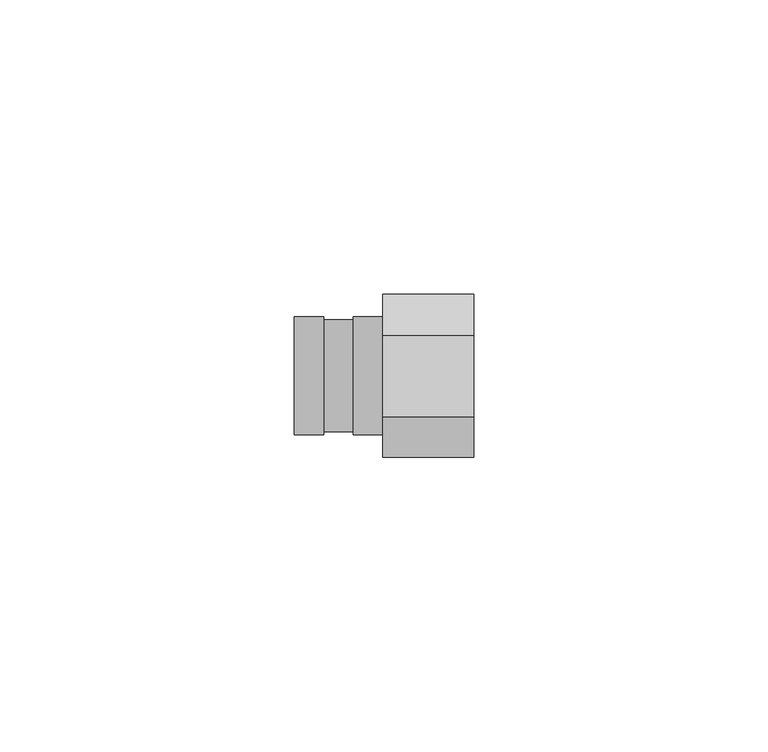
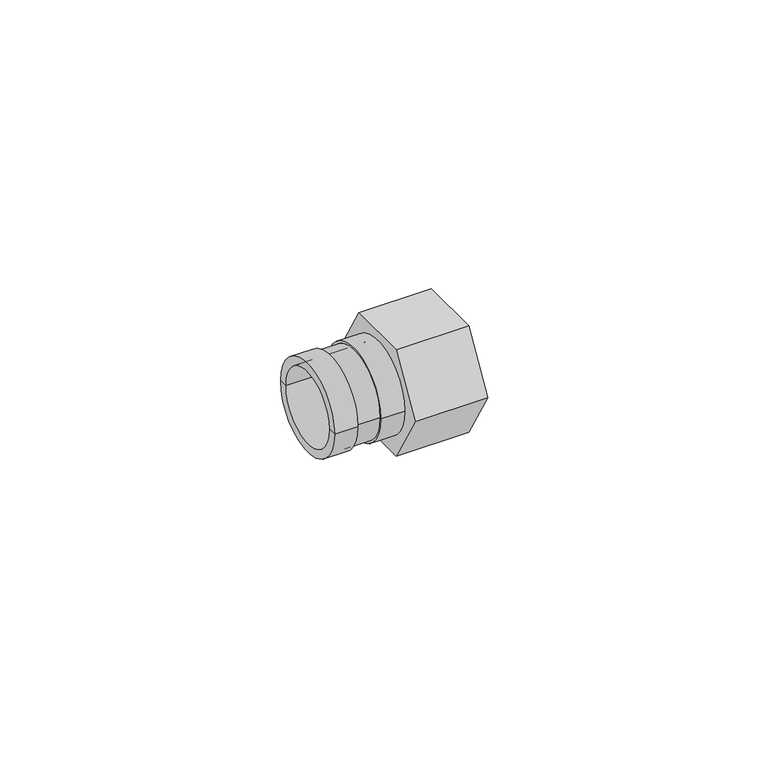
"""IFC4 building model written with IfcOpenShell, lengths in millimetres: pipe fitting geometry, Astra - Conexão Fixa Fêmea - KRH : Astra - Conexão Fixa Fêmea - KRH."""

from ifc_helpers import new_model, si_unit, frame, origin, place, context, project, spatial, polyline, circle_curve, source, transform, mapped, element, save
from ifc_brep_helpers import plane_surface, cylinder_surface, revolved_surface, advanced_brep


def pipe_fitting_7b5d8ced(model_context):
    return source(origin(), model_context, "Body", "AdvancedBrep", [
        advanced_brep(
        [(-15.0, -8.15, 0.0), (-15.0, 8.15, 0.0), (-15.0, 10.0, 0.0), (-15.0, -10.0, 0.0), (0.0, -8.15, 0.0), (0.0, 8.15, 0.0), (0.0, -10.0, 0.0), (0.0, 10.0, 0.0), (-10.0, 10.0, 0.0), (-10.0, -10.0, 0.0), (-5.0, -10.0, 0.0), (-5.0, 10.0, 0.0), (-10.0, 9.5, 0.0), (-10.0, -9.5, 0.0), (-5.0, 9.5, 0.0), (-5.0, -9.5, 0.0)],
        [
            (0, 1, circle_curve(frame((-15.0, 0.0, 0.0), z_axis=(1.0, 0.0, 0.0), x_axis=(0.0, 1.0, 0.0)), 8.15)),
            (1, 2),
            (2, 3, circle_curve(frame((-15.0, 0.0, 0.0), z_axis=(-1.0, 0.0, 0.0), x_axis=(0.0, 1.0, 0.0)), 10.0)),
            (3, 0),
            (1, 0, circle_curve(frame((-15.0, 0.0, 0.0), z_axis=(1.0, 0.0, 0.0), x_axis=(0.0, 1.0, 0.0)), 8.15)),
            (3, 2, circle_curve(frame((-15.0, 0.0, 0.0), z_axis=(-1.0, 0.0, 0.0), x_axis=(0.0, 1.0, 0.0)), 10.0)),
            (0, 4),
            (4, 5, circle_curve(frame((0.0, 0.0, 0.0), z_axis=(1.0, 0.0, 0.0), x_axis=(0.0, 1.0, 0.0)), 8.15)),
            (5, 1),
            (5, 4, circle_curve(frame((0.0, 0.0, 0.0), z_axis=(1.0, 0.0, 0.0), x_axis=(0.0, 1.0, 0.0)), 8.15)),
            (4, 6),
            (6, 7, circle_curve(frame((0.0, 0.0, 0.0), z_axis=(1.0, 0.0, 0.0), x_axis=(0.0, 1.0, 0.0)), 10.0)),
            (7, 5),
            (7, 6, circle_curve(frame((0.0, 0.0, 0.0), z_axis=(1.0, 0.0, 0.0), x_axis=(0.0, 1.0, 0.0)), 10.0)),
            (2, 8),
            (8, 9, circle_curve(frame((-10.0, 0.0, 0.0), z_axis=(-1.0, 0.0, 0.0), x_axis=(0.0, 1.0, 0.0)), 10.0)),
            (9, 3),
            (6, 10),
            (10, 11, circle_curve(frame((-5.0, 0.0, 0.0), z_axis=(1.0, 0.0, 0.0), x_axis=(0.0, 1.0, 0.0)), 10.0)),
            (11, 7),
            (9, 8, circle_curve(frame((-10.0, 0.0, 0.0), z_axis=(-1.0, 0.0, 0.0), x_axis=(0.0, 1.0, 0.0)), 10.0)),
            (11, 10, circle_curve(frame((-5.0, 0.0, 0.0), z_axis=(1.0, 0.0, 0.0), x_axis=(0.0, 1.0, 0.0)), 10.0)),
            (12, 13, circle_curve(frame((-10.0, 0.0, 0.0), z_axis=(-1.0, 0.0, 0.0), x_axis=(0.0, 1.0, 0.0)), 9.5)),
            (13, 9),
            (8, 12),
            (13, 12, circle_curve(frame((-10.0, 0.0, 0.0), z_axis=(-1.0, 0.0, 0.0), x_axis=(0.0, 1.0, 0.0)), 9.5)),
            (12, 14),
            (14, 15, circle_curve(frame((-5.0, 0.0, 0.0), z_axis=(-1.0, 0.0, 0.0), x_axis=(0.0, 1.0, 0.0)), 9.5)),
            (15, 13),
            (15, 14, circle_curve(frame((-5.0, 0.0, 0.0), z_axis=(-1.0, 0.0, 0.0), x_axis=(0.0, 1.0, 0.0)), 9.5)),
            (14, 11),
            (10, 15),
        ],
        [
            plane_surface(frame((-15.0, 0.0, 0.0), z_axis=(-1.0, 0.0, 0.0), x_axis=(0.0, 1.0, 0.0))),
            revolved_surface(polyline([(-15.0, 8.15, 0.0), (0.0, 8.15, 0.0)]), (-15.0, 0.0, 0.0), (-1.0, 0.0, 0.0)),
            plane_surface(frame((0.0, 0.0, 0.0), z_axis=(1.0, 0.0, 0.0), x_axis=(0.0, 1.0, 0.0))),
            cylinder_surface(frame((-15.0, 0.0, 0.0), z_axis=(-1.0, 0.0, 0.0), x_axis=(0.0, 1.0, 0.0)), 10.0),
            plane_surface(frame((-10.0, 0.0, 0.0), z_axis=(1.0, 0.0, 0.0), x_axis=(0.0, 1.0, 0.0))),
            cylinder_surface(frame((-15.0, 0.0, 0.0), z_axis=(-1.0, 0.0, 0.0), x_axis=(0.0, 1.0, 0.0)), 9.5),
            plane_surface(frame((-5.0, 0.0, 0.0), z_axis=(-1.0, 0.0, 0.0), x_axis=(0.0, 1.0, 0.0))),
        ],
        [
            (0, [[1, 2, 3, 4]]),
            (0, [[-2, 5, -4, 6]]),
            (1, [[-1, 7, 8, 9]]),
            (1, [[-5, -9, 10, -7]]),
            (2, [[-8, 11, 12, 13]]),
            (2, [[-10, -13, 14, -11]]),
            (3, [[-3, 15, 16, 17]]),
            (3, [[-12, 18, 19, 20]]),
            (3, [[-6, -17, 21, -15]]),
            (3, [[-14, -20, 22, -18]]),
            (4, [[23, 24, -16, 25]]),
            (4, [[26, -25, -21, -24]]),
            (5, [[-23, 27, 28, 29]]),
            (5, [[-26, -29, 30, -27]]),
            (6, [[-28, 31, -19, 32]]),
            (6, [[-30, -32, -22, -31]]),
        ],
    ),
        advanced_brep(
        [(15.5, -13.8564065, 0.0), (15.5, -6.9282032, -12.0), (15.5, 6.9282032, -12.0), (15.5, 13.8564065, 0.0), (15.5, 6.9282032, 12.0), (15.5, -6.9282032, 12.0), (15.5, 9.5, 0.0), (15.5, -9.5, 0.0), (0.0, -13.8564065, 0.0), (0.0, -6.9282032, 12.0), (0.0, 6.9282032, 12.0), (0.0, 13.8564065, 0.0), (0.0, 6.9282032, -12.0), (0.0, -6.9282032, -12.0), (7.5, -9.5, 0.0), (7.5, 9.5, 0.0), (7.5, 0.0, 0.0)],
        [
            (0, 1),
            (1, 2),
            (2, 3),
            (3, 4),
            (4, 5),
            (5, 0),
            (6, 7, circle_curve(frame((15.5, 0.0, 0.0), z_axis=(-1.0, 0.0, 0.0), x_axis=(0.0, 1.0, 0.0)), 9.5)),
            (7, 6, circle_curve(frame((15.5, 0.0, 0.0), z_axis=(-1.0, 0.0, 0.0), x_axis=(0.0, 1.0, 0.0)), 9.5)),
            (8, 9),
            (9, 10),
            (10, 11),
            (11, 12),
            (12, 13),
            (13, 8),
            (0, 8),
            (13, 1),
            (12, 2),
            (11, 3),
            (10, 4),
            (9, 5),
            (14, 7),
            (6, 15),
            (15, 14, circle_curve(frame((7.5, 0.0, 0.0), z_axis=(-1.0, 0.0, 0.0), x_axis=(0.0, 1.0, 0.0)), 9.5)),
            (14, 15, circle_curve(frame((7.5, 0.0, 0.0), z_axis=(-1.0, 0.0, 0.0), x_axis=(0.0, 1.0, 0.0)), 9.5)),
            (15, 16),
            (16, 14),
        ],
        [
            plane_surface(frame((15.5, -13.8564065, 0.0), z_axis=(1.0, 0.0, 0.0), x_axis=(0.0, 0.5000000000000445, -0.866025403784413))),
            plane_surface(frame((0.0, -13.8564065, 0.0), z_axis=(-1.0, 0.0, 0.0), x_axis=(0.0, -0.5000000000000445, 0.866025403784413))),
            plane_surface(frame((15.5, -13.8564065, 0.0), z_axis=(0.0, -0.866025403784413, -0.5000000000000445), x_axis=(-1.0, 0.0, 0.0))),
            plane_surface(frame((15.5, -6.9282032, -12.0), z_axis=(0.0, 0.0, -1.0), x_axis=(-1.0, 0.0, 0.0))),
            plane_surface(frame((15.5, 6.9282032, -12.0), z_axis=(0.0, 0.8660254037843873, -0.500000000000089), x_axis=(-1.0, 0.0, 0.0))),
            plane_surface(frame((15.5, 13.8564065, 0.0), z_axis=(0.0, 0.8660254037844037, 0.5000000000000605), x_axis=(-1.0, 0.0, 0.0))),
            plane_surface(frame((15.5, 6.9282032, 12.0), z_axis=(0.0, 0.0, 1.0), x_axis=(-1.0, 0.0, 0.0))),
            plane_surface(frame((15.5, -6.9282032, 12.0), z_axis=(0.0, -0.8660254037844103, 0.5000000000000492), x_axis=(-1.0, 0.0, 0.0))),
            revolved_surface(polyline([(7.5, 9.5, 0.0), (15.5, 9.5, 0.0)]), (7.5, 0.0, 0.0), (-1.0, 0.0, 0.0)),
            plane_surface(frame((7.5, 0.0, 0.0), z_axis=(1.0, 0.0, 0.0), x_axis=(0.0, 1.0, 0.0))),
        ],
        [
            (0, [[1, 2, 3, 4, 5, 6], [7, 8]]),
            (1, [[9, 10, 11, 12, 13, 14]]),
            (2, [[-1, 15, -14, 16]]),
            (3, [[-2, -16, -13, 17]]),
            (4, [[-3, -17, -12, 18]]),
            (5, [[-4, -18, -11, 19]]),
            (6, [[-5, -19, -10, 20]]),
            (7, [[-6, -20, -9, -15]]),
            (8, [[21, -7, 22, 23]]),
            (8, [[-21, 24, -22, -8]]),
            (9, [[-23, 25, 26]]),
            (9, [[-24, -26, -25]]),
        ],
    ),
    ])


if __name__ == "__main__":
    model = new_model("IFC4")
    model_context = context("Model", 3, world=origin())
    ifc_project = project(units=[si_unit("LENGTHUNIT", "METRE", prefix="MILLI")], contexts=[model_context])
    site = spatial("IfcSite", under=ifc_project)
    building = spatial("IfcBuilding", under=site)
    placement = place(None, origin())
    pipe_fitting_shape = pipe_fitting_7b5d8ced(model_context)
    element("IfcPipeFitting", 1, ObjectType="Astra - Conexão Fixa Fêmea - KRH : Astra - Conexão Fixa Fêmea - KRH", at=placement, inside=building, context=model_context, shape_type="MappedRepresentation", body=[
        mapped(pipe_fitting_shape, transform((0.0, 0.0, 0.0), x_axis=(1.0, 0.0, 0.0), y_axis=(0.0, 1.0, 0.0), z_axis=(0.0, 0.0, 1.0))),
    ])
    save(model, "model.ifc")
